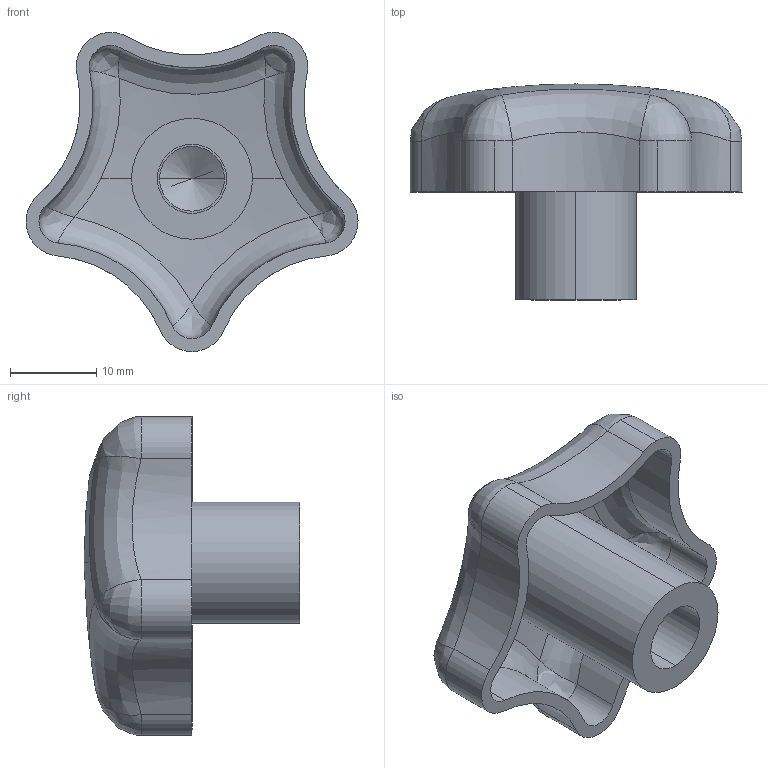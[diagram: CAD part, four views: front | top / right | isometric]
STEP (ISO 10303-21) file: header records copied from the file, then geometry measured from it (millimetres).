
FILE_DESCRIPTION (( 'STEP AP203' ), '1' );
FILE_NAME ('7016.W240.step', '2010-01-31T12:12:14', ( 'Wixroyd' ), ( 'Wixroyd' ), 'SwSTEP 2.0', 'SolidWorks 2009', '' );
FILE_SCHEMA (( 'CONFIG_CONTROL_DESIGN' ));
Length unit declared in the file: millimetre
Products named in the file (1): 7016.W240
Bounding box: 38.43 x 25 x 36.94 mm (x, y, z)
Volume: 5435.4 mm3; surface area: 5337.6 mm2
Topology: 1 solids, 1 shells, 59 faces, 146 edges, 80 vertices
Faces by surface type: cylinder 30, bspline 20, sphere 4, plane 3, cone 2
Entity records: 12483 total; most frequent: CARTESIAN_POINT 11186, ORIENTED_EDGE 268, DIRECTION 228, EDGE_CURVE 134, AXIS2_PLACEMENT_3D 98, VERTEX_POINT 80, EDGE_LOOP 62, FACE_OUTER_BOUND 59
